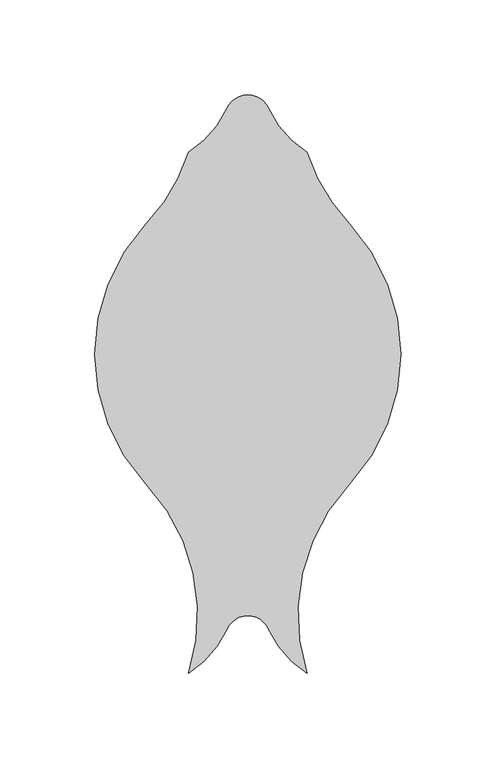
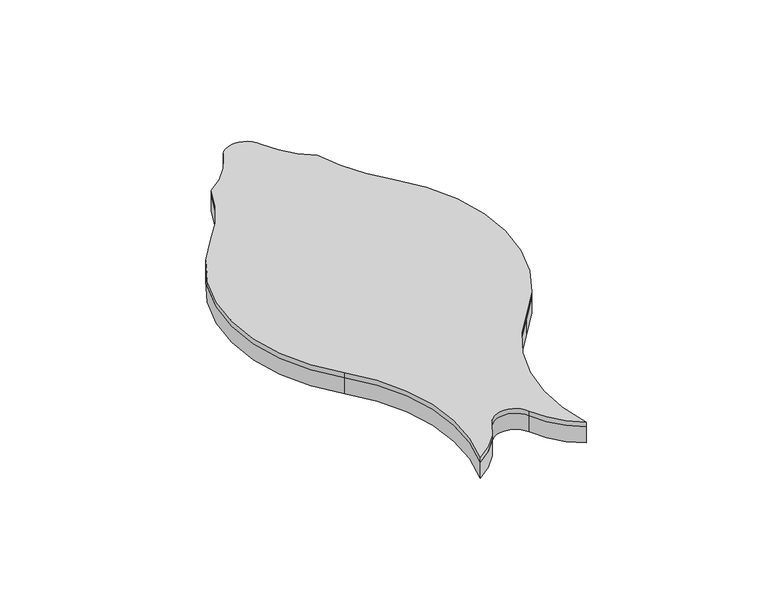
"""IFC4 building model written with IfcOpenShell, lengths in millimetres: proxy geometry, FilzFelt_Fish_Block : Fish Block."""

import ifcopenshell
import ifcopenshell.guid

model = None  # the IFC model being written
_history = None  # IfcOwnerHistory: only IFC2X3 demands one
_inside = {}  # id of a spatial element -> (the spatial element, [elements in it])
_under = {}  # id of a project, library or spatial element -> (it, [spatial elements below it])
_declared = {}  # id of a project -> (the project, [libraries it declares])
_typed = {}  # id of a type object -> (the type object, [elements of that type])
_made_of = {}  # id of a material, layer set ... -> (it, [elements and type objects made of it])


def new_model(schema):
    """Start an empty IFC model of exactly this schema.

    Asked for "IFC4X3", IfcOpenShell would pick the latest addendum, in which some entities
    have other attributes; the version numbers below select the first issue.
    IFC2X3 requires an IfcOwnerHistory on every rooted entity: one is made here for all.
    """
    global model, _history
    if schema == "IFC4X3":
        model = ifcopenshell.file(schema_version=(4, 3, 0, 0))
    else:
        model = ifcopenshell.file(schema=schema)
    _inside.clear()
    _under.clear()
    _declared.clear()
    _typed.clear()
    _made_of.clear()
    _history = None
    if model.schema == "IFC2X3":
        org = make("IfcOrganization", Name="unknown")
        user = make(
            "IfcPersonAndOrganization",
            ThePerson=make("IfcPerson", FamilyName="unknown"),
            TheOrganization=org,
        )
        app = make(
            "IfcApplication",
            ApplicationDeveloper=org,
            Version="unknown",
            ApplicationFullName="unknown",
            ApplicationIdentifier="unknown",
        )
        _history = make(
            "IfcOwnerHistory",
            OwningUser=user,
            OwningApplication=app,
            ChangeAction="ADDED",
            CreationDate=0,
        )
    return model


def make(cls, **values):
    """One entity of the class cls with the attributes given. An attribute that is None is left unset."""
    return model.create_entity(
        cls, **{name: value for name, value in values.items() if value is not None}
    )


def rooted(cls, **values):
    """An entity with a GlobalId (a new one), such as an element, a storey or a relation."""
    return make(cls, GlobalId=ifcopenshell.guid.new(), OwnerHistory=_history, **values)


def si_unit(unit_type, name, prefix=None):
    """IfcSIUnit, for example si_unit("LENGTHUNIT", "METRE", prefix="MILLI")."""
    return make("IfcSIUnit", UnitType=unit_type, Prefix=prefix, Name=name)


def assignment(units):
    """IfcUnitAssignment: the units of a project."""
    return None if units is None else make("IfcUnitAssignment", Units=units)


def point(xyz):
    """IfcCartesianPoint."""
    return None if xyz is None else make("IfcCartesianPoint", Coordinates=xyz)


def direction(xyz):
    """IfcDirection."""
    return None if xyz is None else make("IfcDirection", DirectionRatios=xyz)


def frame(location, z_axis=None, x_axis=None):
    """IfcAxis2Placement3D, a coordinate frame: its origin and axes. An axis left out is left unset."""
    return make(
        "IfcAxis2Placement3D",
        Location=point(location),
        Axis=direction(z_axis),
        RefDirection=direction(x_axis),
    )


def origin():
    """The frame at (0, 0, 0) with its axes left unset."""
    return frame((0.0, 0.0, 0.0))


def place(relative_to, where):
    """IfcLocalPlacement: puts the frame where relative to a parent placement (None: the world)."""
    return make(
        "IfcLocalPlacement", PlacementRelTo=relative_to, RelativePlacement=where
    )


def context(
    kind, dimensions, precision=None, world=None, true_north=None, identifier=None
):
    """IfcGeometricRepresentationContext, for example the 3D "Model" context."""
    return make(
        "IfcGeometricRepresentationContext",
        ContextIdentifier=identifier,
        ContextType=kind,
        CoordinateSpaceDimension=dimensions,
        Precision=precision,
        WorldCoordinateSystem=world,
        TrueNorth=true_north,
    )


def project(units=None, contexts=None):
    """IfcProject with its units and contexts."""
    return rooted(
        "IfcProject",
        Name="project",
        RepresentationContexts=contexts,
        UnitsInContext=assignment(units),
    )


def spatial(cls, under=None, at=None, **own):
    """A site, building, storey or space (cls), placed at a placement, below another one or the project."""
    s = rooted(cls, ObjectPlacement=at, **own)
    if under is not None:
        _under.setdefault(under.id(), (under, []))[1].append(s)
    return s


def polyline(points):
    """IfcPolyline through the points."""
    return make("IfcPolyline", Points=[point(p) for p in points])


def circle_curve(where, radius):
    """IfcCircle in the frame where."""
    return make("IfcCircle", Position=where, Radius=radius)


def shape(context_of_items, identifier, shape_type, items):
    """IfcShapeRepresentation: the items that make up one representation, for example the "Body"."""
    return make(
        "IfcShapeRepresentation",
        ContextOfItems=context_of_items,
        RepresentationIdentifier=identifier,
        RepresentationType=shape_type,
        Items=items,
    )


def source(mapping_origin, context_of_items, identifier, shape_type, items):
    """IfcRepresentationMap: a shape defined once, which mapped items show again and again."""
    return make(
        "IfcRepresentationMap",
        MappingOrigin=mapping_origin,
        MappedRepresentation=shape(context_of_items, identifier, shape_type, items),
    )


def transform(
    local_origin,
    x_axis=None,
    y_axis=None,
    z_axis=None,
    scale=None,
    scale2=None,
    scale3=None,
    uniform=True,
):
    """IfcCartesianTransformationOperator3D, or its non-uniform kind. x_axis, y_axis, z_axis: its Axis1, 2, 3."""
    if uniform:
        return make(
            "IfcCartesianTransformationOperator3D",
            Axis1=direction(x_axis),
            Axis2=direction(y_axis),
            LocalOrigin=point(local_origin),
            Scale=scale,
            Axis3=direction(z_axis),
        )
    return make(
        "IfcCartesianTransformationOperator3DnonUniform",
        Axis1=direction(x_axis),
        Axis2=direction(y_axis),
        LocalOrigin=point(local_origin),
        Scale=scale,
        Axis3=direction(z_axis),
        Scale2=scale2,
        Scale3=scale3,
    )


def mapped(mapping_source, mapping_target):
    """IfcMappedItem: shows the shape of a source again, moved by a transform."""
    return make(
        "IfcMappedItem", MappingSource=mapping_source, MappingTarget=mapping_target
    )


def made_of(thing, what):
    """Note that an element or type object is made of a material, layer set ...; save() writes the relation."""
    if what is not None:
        _made_of.setdefault(what.id(), (what, []))[1].append(thing)
    return thing


def element(
    cls,
    number,
    at=None,
    inside=None,
    cuts=None,
    type_object=None,
    material=None,
    context=None,
    identifier="Body",
    shape_type=None,
    held_by="IfcProductDefinitionShape",
    body=None,
    shapes=None,
    **own,
):
    """One element of the class cls, such as IfcWall. Its Tag is "e" and its number.

    at: its placement. inside: the storey or other place that contains it. cuts: it is an
    opening in that element (IfcRelVoidsElement). A single representation is given by context,
    identifier, shape_type and body (its items); several are given by shapes. held_by: the class
    of the entity that holds the representations. save() writes the other relations.
    """
    e = rooted(cls, Tag="e%d" % number, ObjectPlacement=at, **own)
    if body is not None:
        shapes = [shape(context, identifier, shape_type, body)]
    if shapes is not None:
        e.Representation = make(held_by, Representations=shapes)
    if inside is not None:
        _inside.setdefault(inside.id(), (inside, []))[1].append(e)
    if cuts is not None:
        rooted(
            "IfcRelVoidsElement", RelatingBuildingElement=cuts, RelatedOpeningElement=e
        )
    if type_object is not None:
        _typed.setdefault(type_object.id(), (type_object, []))[1].append(e)
    return made_of(e, material)


def aggregate(whole, parts):
    """IfcRelAggregates: a whole, such as a stair, and the parts it consists of."""
    return rooted("IfcRelAggregates", RelatingObject=whole, RelatedObjects=parts)


def save(model, path):
    """Write the relations noted so far, then the file.

    IfcRelAggregates (storeys below a building ...), IfcRelContainedInSpatialStructure (elements
    in a storey), IfcRelDefinesByType, IfcRelAssociatesMaterial and IfcRelDeclares: one each for
    every whole, place, type object, material and project.
    """
    for whole, parts in _under.values():
        aggregate(whole, parts)
    for where, things in _inside.values():
        rooted(
            "IfcRelContainedInSpatialStructure",
            RelatedElements=things,
            RelatingStructure=where,
        )
    for kind, things in _typed.values():
        rooted("IfcRelDefinesByType", RelatedObjects=things, RelatingType=kind)
    for what, things in _made_of.values():
        rooted("IfcRelAssociatesMaterial", RelatedObjects=things, RelatingMaterial=what)
    for by, libraries in _declared.values():
        rooted("IfcRelDeclares", RelatingContext=by, RelatedDefinitions=libraries)
    model.write(path)


def plane_surface(at):
    """IfcPlane: the flat surface through the origin of the frame at, square to its z axis."""
    return make("IfcPlane", Position=at)


def cylinder_surface(at, radius):
    """IfcCylindricalSurface: all points at the distance radius from the z axis of the frame at."""
    return make("IfcCylindricalSurface", Position=at, Radius=radius)


def revolved_surface(curve, axis_point, axis_direction):
    """IfcSurfaceOfRevolution: the curve turned about the line through axis_point along axis_direction."""
    return make(
        "IfcSurfaceOfRevolution",
        SweptCurve=make("IfcArbitraryOpenProfileDef", ProfileType="CURVE", Curve=curve),
        AxisPosition=make("IfcAxis1Placement", Location=point(axis_point), Axis=direction(axis_direction)),
    )


def advanced_brep(points, edges, surfaces, faces):
    """IfcAdvancedBrep: a solid bounded by faces that lie on surfaces and meet in shared edges.

    An edge is (start, end): straight between two places in points (the first is 0);
    or (start, end, curve); or (start, end, curve, False) where it runs against its curve.
    A face is (place in surfaces, loops), or (place, loops, False) where it looks against
    its surface's normal. A loop lists edges by number (the first is 1), with a minus sign
    where the edge is run from its end to its start. The first loop is the outer one.
    """
    corners = [point(p) for p in points]
    vertices = [make("IfcVertexPoint", VertexGeometry=c) for c in corners]
    made = []
    for start, end, *more in edges:
        made.append(
            make(
                "IfcEdgeCurve",
                EdgeStart=vertices[start],
                EdgeEnd=vertices[end],
                EdgeGeometry=more[0] if more else make("IfcPolyline", Points=[corners[start], corners[end]]),
                SameSense=more[1] if len(more) > 1 else True,
            )
        )
    hull = []
    for where, loops, *sense in faces:
        bounds = []
        for j, loop in enumerate(loops):
            ring = [make("IfcOrientedEdge", EdgeElement=made[abs(k) - 1], Orientation=k > 0) for k in loop]
            bounds.append(
                make(
                    "IfcFaceOuterBound" if j == 0 else "IfcFaceBound",
                    Bound=make("IfcEdgeLoop", EdgeList=ring),
                    Orientation=True,
                )
            )
        hull.append(make("IfcAdvancedFace", Bounds=bounds, FaceSurface=surfaces[where], SameSense=sense[0] if sense else True))
    return make("IfcAdvancedBrep", Outer=make("IfcClosedShell", CfsFaces=hull))


def specialty_equipment_58f33b70(model_context):
    return source(origin(), model_context, "Body", "AdvancedBrep", [
        advanced_brep(
        [(53.5486457, 68.6120133, 10.0210937), (53.5486457, -68.6120133, 10.0210937), (31.2619065, -168.1141956, 10.0210937), (11.0103348, -145.0347036, 10.0210937), (-11.0103348, -145.0347036, 10.0210937), (-31.2619065, -168.1141956, 10.0210937), (-53.5486457, -68.6120133, 10.0210937), (-53.5486457, 68.6120133, 10.0210937), (-31.2619065, 106.3338576, 10.0210937), (-11.0103348, 129.4133496, 10.0210937), (11.0103348, 129.4133496, 10.0210937), (31.2619065, 106.3338576, 10.0210937), (53.5486457, 68.6120133, 12.9976563), (31.2619065, 106.3338576, 12.9976563), (11.0103348, 129.4133496, 12.9976563), (0.0, 136.5838795, 12.9976563), (-11.0103348, 129.4133496, 12.9976563), (-31.2619065, 106.3338576, 12.9976563), (-53.5486457, 68.6120133, 12.9976563), (-53.5486457, -68.6120133, 12.9976563), (-31.2619065, -168.1141956, 12.9976563), (-11.0103348, -145.0347036, 12.9976563), (11.0103348, -145.0347036, 12.9976563), (31.2619065, -168.1141956, 12.9976563), (53.5486457, -68.6120133, 12.9976563), (80.7142226, 0.0, 12.9976563)],
        [
            (0, 1, circle_curve(frame((-19.5151403, 0.0, 10.0210937), z_axis=(0.0, 0.0, -1.0), x_axis=(-1.0, 0.0, 0.0)), 100.2293629)),
            (1, 2, circle_curve(frame((126.6124317, -137.2240266, 10.0210937), z_axis=(0.0, 0.0, 1.0), x_axis=(-1.0, 0.0, 0.0)), 100.2293629)),
            (2, 3, circle_curve(frame((57.9263497, -124.2921115, 10.0210937), z_axis=(0.0, 0.0, -1.0), x_axis=(-1.0, 0.0, 0.0)), 51.2968574)),
            (3, 4, circle_curve(frame((0.0, -149.9026124, 10.0210937), z_axis=(0.0, 0.0, 1.0), x_axis=(-1.0, 0.0, 0.0)), 12.0384388)),
            (4, 5, circle_curve(frame((-57.9263497, -124.2921115, 10.0210937), z_axis=(0.0, 0.0, -1.0), x_axis=(-1.0, 0.0, 0.0)), 51.2968574)),
            (5, 6, circle_curve(frame((-126.6124317, -137.2240266, 10.0210937), z_axis=(0.0, 0.0, 1.0), x_axis=(-1.0, 0.0, 0.0)), 100.2293629)),
            (6, 7, circle_curve(frame((19.5151403, 0.0, 10.0210937), z_axis=(0.0, 0.0, -1.0), x_axis=(-1.0, 0.0, 0.0)), 100.2293629)),
            (7, 8, circle_curve(frame((-126.6124317, 137.2240266, 10.0210937), z_axis=(0.0, 0.0, 1.0), x_axis=(-1.0, 0.0, 0.0)), 100.2293629)),
            (8, 9, circle_curve(frame((-57.9263497, 150.1559416, 10.0210937), z_axis=(0.0, 0.0, 1.0), x_axis=(-1.0, 0.0, 0.0)), 51.2968574)),
            (9, 10, circle_curve(frame((0.0, 124.5454408, 10.0210937), z_axis=(0.0, 0.0, -1.0), x_axis=(-1.0, 0.0, 0.0)), 12.0384388)),
            (10, 11, circle_curve(frame((57.9263497, 150.1559416, 10.0210937), z_axis=(0.0, 0.0, 1.0), x_axis=(-1.0, 0.0, 0.0)), 51.2968574)),
            (11, 0, circle_curve(frame((126.6124317, 137.2240266, 10.0210937), z_axis=(0.0, 0.0, 1.0), x_axis=(-1.0, 0.0, 0.0)), 100.2293629)),
            (12, 13, circle_curve(frame((126.6124317, 137.2240266, 12.9976563), z_axis=(0.0, 0.0, -1.0), x_axis=(-1.0, 0.0, 0.0)), 100.2293629)),
            (13, 14, circle_curve(frame((57.9263497, 150.1559416, 12.9976563), z_axis=(0.0, 0.0, -1.0), x_axis=(-1.0, 0.0, 0.0)), 51.2968574)),
            (14, 15, circle_curve(frame((0.0, 124.5454408, 12.9976563), z_axis=(0.0, 0.0, 1.0), x_axis=(-1.0, 0.0, 0.0)), 12.0384388)),
            (15, 16, circle_curve(frame((0.0, 124.5454408, 12.9976563), z_axis=(0.0, 0.0, 1.0), x_axis=(-1.0, 0.0, 0.0)), 12.0384388)),
            (16, 17, circle_curve(frame((-57.9263497, 150.1559416, 12.9976563), z_axis=(0.0, 0.0, -1.0), x_axis=(-1.0, 0.0, 0.0)), 51.2968574)),
            (17, 18, circle_curve(frame((-126.6124317, 137.2240266, 12.9976563), z_axis=(0.0, 0.0, -1.0), x_axis=(-1.0, 0.0, 0.0)), 100.2293629)),
            (18, 19, circle_curve(frame((19.5151403, 0.0, 12.9976563), z_axis=(0.0, 0.0, 1.0), x_axis=(-1.0, 0.0, 0.0)), 100.2293629)),
            (19, 20, circle_curve(frame((-126.6124317, -137.2240266, 12.9976563), z_axis=(0.0, 0.0, -1.0), x_axis=(-1.0, 0.0, 0.0)), 100.2293629)),
            (20, 21, circle_curve(frame((-57.9263497, -124.2921115, 12.9976563), z_axis=(0.0, 0.0, 1.0), x_axis=(-1.0, 0.0, 0.0)), 51.2968574)),
            (21, 22, circle_curve(frame((0.0, -149.9026124, 12.9976563), z_axis=(0.0, 0.0, -1.0), x_axis=(-1.0, 0.0, 0.0)), 12.0384388)),
            (22, 23, circle_curve(frame((57.9263497, -124.2921115, 12.9976563), z_axis=(0.0, 0.0, 1.0), x_axis=(-1.0, 0.0, 0.0)), 51.2968574)),
            (23, 24, circle_curve(frame((126.6124317, -137.2240266, 12.9976563), z_axis=(0.0, 0.0, -1.0), x_axis=(-1.0, 0.0, 0.0)), 100.2293629)),
            (24, 25, circle_curve(frame((-19.5151403, 0.0, 12.9976563), z_axis=(0.0, 0.0, 1.0), x_axis=(-1.0, 0.0, 0.0)), 100.2293629)),
            (25, 12, circle_curve(frame((-19.5151403, 0.0, 12.9976563), z_axis=(0.0, 0.0, 1.0), x_axis=(-1.0, 0.0, 0.0)), 100.2293629)),
            (0, 12),
            (24, 1),
            (23, 2),
            (22, 3),
            (21, 4),
            (20, 5),
            (19, 6),
            (18, 7),
            (17, 8),
            (16, 9),
            (14, 10),
            (13, 11),
        ],
        [
            plane_surface(frame((0.0, 0.0, 10.0210937), z_axis=(0.0, 0.0, -1.0), x_axis=(0.0, -1.0, 0.0))),
            plane_surface(frame((0.0, 0.0, 12.9976563), z_axis=(0.0, 0.0, 1.0), x_axis=(0.0, -1.0, 0.0))),
            cylinder_surface(frame((-19.5151403, 0.0, 10.0210937), z_axis=(0.0, 0.0, -1.0), x_axis=(-1.0, 0.0, 0.0)), 100.2293629),
            revolved_surface(polyline([(26.383068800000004, -137.2240266, 12.9976563), (26.383068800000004, -137.2240266, 10.0210937)]), (126.6124317, -137.2240266, 10.0210937), (0.0, 0.0, 1.0)),
            cylinder_surface(frame((57.9263497, -124.2921115, 10.0210937), z_axis=(0.0, 0.0, -1.0), x_axis=(-1.0, 0.0, 0.0)), 51.2968574),
            revolved_surface(polyline([(-12.0384388, -149.9026124, 12.9976563), (-12.0384388, -149.9026124, 10.0210937)]), (0.0, -149.9026124, 10.0210937), (0.0, 0.0, 1.0)),
            cylinder_surface(frame((-57.9263497, -124.2921115, 10.0210937), z_axis=(0.0, 0.0, -1.0), x_axis=(-1.0, 0.0, 0.0)), 51.2968574),
            revolved_surface(polyline([(-226.84179460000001, -137.2240266, 12.9976563), (-226.84179460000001, -137.2240266, 10.0210937)]), (-126.6124317, -137.2240266, 10.0210937), (0.0, 0.0, 1.0)),
            cylinder_surface(frame((19.5151403, 0.0, 10.0210937), z_axis=(0.0, 0.0, -1.0), x_axis=(-1.0, 0.0, 0.0)), 100.2293629),
            revolved_surface(polyline([(-226.84179460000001, 137.2240266, 12.9976563), (-226.84179460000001, 137.2240266, 10.0210937)]), (-126.6124317, 137.2240266, 10.0210937), (0.0, 0.0, 1.0)),
            revolved_surface(polyline([(-109.2232071, 150.1559416, 12.9976563), (-109.2232071, 150.1559416, 10.0210937)]), (-57.9263497, 150.1559416, 10.0210937), (0.0, 0.0, 1.0)),
            cylinder_surface(frame((0.0, 124.5454408, 10.0210937), z_axis=(0.0, 0.0, -1.0), x_axis=(-1.0, 0.0, 0.0)), 12.0384388),
            revolved_surface(polyline([(6.629492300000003, 150.1559416, 12.9976563), (6.629492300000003, 150.1559416, 10.0210937)]), (57.9263497, 150.1559416, 10.0210937), (0.0, 0.0, 1.0)),
            revolved_surface(polyline([(26.383068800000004, 137.2240266, 12.9976563), (26.383068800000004, 137.2240266, 10.0210937)]), (126.6124317, 137.2240266, 10.0210937), (0.0, 0.0, 1.0)),
        ],
        [
            (0, [[1, 2, 3, 4, 5, 6, 7, 8, 9, 10, 11, 12]]),
            (1, [[13, 14, 15, 16, 17, 18, 19, 20, 21, 22, 23, 24, 25, 26]]),
            (2, [[-1, 27, -26, -25, 28]]),
            (3, [[-2, -28, -24, 29]]),
            (4, [[-3, -29, -23, 30]]),
            (5, [[-4, -30, -22, 31]]),
            (6, [[-5, -31, -21, 32]]),
            (7, [[-6, -32, -20, 33]]),
            (8, [[-7, -33, -19, 34]]),
            (9, [[-8, -34, -18, 35]]),
            (10, [[-9, -35, -17, 36]]),
            (11, [[-10, -36, -16, -15, 37]]),
            (12, [[-11, -37, -14, 38]]),
            (13, [[-12, -38, -13, -27]]),
        ],
    ),
        advanced_brep(
        [(31.2619065, -168.1141956, 0.0), (11.0103348, -145.0347036, 0.0), (-11.0103348, -145.0347036, 0.0), (-31.2619065, -168.1141956, 0.0), (-53.5486457, -68.6120133, 0.0), (-53.5486457, 68.6120133, 0.0), (-31.2619065, 106.3338576, 0.0), (-11.0103348, 129.4133496, 0.0), (0.0, 136.5838795, 0.0), (11.0103348, 129.4133496, 0.0), (31.2619065, 106.3338576, 0.0), (53.5486457, 68.6120133, 0.0), (80.7142226, 0.0, 0.0), (53.5486457, -68.6120133, 0.0), (31.2619065, -168.1141956, 10.0210937), (53.5486457, -68.6120133, 10.0210937), (53.5486457, 68.6120133, 10.0210937), (31.2619065, 106.3338576, 10.0210937), (11.0103348, 129.4133496, 10.0210937), (-11.0103348, 129.4133496, 10.0210937), (-31.2619065, 106.3338576, 10.0210937), (-53.5486457, 68.6120133, 10.0210937), (-53.5486457, -68.6120133, 10.0210937), (-31.2619065, -168.1141956, 10.0210937), (-11.0103348, -145.0347036, 10.0210937), (11.0103348, -145.0347036, 10.0210937)],
        [
            (0, 1, circle_curve(frame((57.9263497, -124.2921115, 0.0), z_axis=(0.0, 0.0, -1.0), x_axis=(-1.0, 0.0, 0.0)), 51.2968574)),
            (1, 2, circle_curve(frame((0.0, -149.9026124, 0.0), z_axis=(0.0, 0.0, 1.0), x_axis=(-1.0, 0.0, 0.0)), 12.0384388)),
            (2, 3, circle_curve(frame((-57.9263497, -124.2921115, 0.0), z_axis=(0.0, 0.0, -1.0), x_axis=(-1.0, 0.0, 0.0)), 51.2968574)),
            (3, 4, circle_curve(frame((-126.6124317, -137.2240266, 0.0), z_axis=(0.0, 0.0, 1.0), x_axis=(-1.0, 0.0, 0.0)), 100.2293629)),
            (4, 5, circle_curve(frame((19.5151403, 0.0, 0.0), z_axis=(0.0, 0.0, -1.0), x_axis=(-1.0, 0.0, 0.0)), 100.2293629)),
            (5, 6, circle_curve(frame((-126.6124317, 137.2240266, 0.0), z_axis=(0.0, 0.0, 1.0), x_axis=(-1.0, 0.0, 0.0)), 100.2293629)),
            (6, 7, circle_curve(frame((-57.9263497, 150.1559416, 0.0), z_axis=(0.0, 0.0, 1.0), x_axis=(-1.0, 0.0, 0.0)), 51.2968574)),
            (7, 8, circle_curve(frame((0.0, 124.5454408, 0.0), z_axis=(0.0, 0.0, -1.0), x_axis=(-1.0, 0.0, 0.0)), 12.0384388)),
            (8, 9, circle_curve(frame((0.0, 124.5454408, 0.0), z_axis=(0.0, 0.0, -1.0), x_axis=(-1.0, 0.0, 0.0)), 12.0384388)),
            (9, 10, circle_curve(frame((57.9263497, 150.1559416, 0.0), z_axis=(0.0, 0.0, 1.0), x_axis=(-1.0, 0.0, 0.0)), 51.2968574)),
            (10, 11, circle_curve(frame((126.6124317, 137.2240266, 0.0), z_axis=(0.0, 0.0, 1.0), x_axis=(-1.0, 0.0, 0.0)), 100.2293629)),
            (11, 12, circle_curve(frame((-19.5151403, 0.0, 0.0), z_axis=(0.0, 0.0, -1.0), x_axis=(-1.0, 0.0, 0.0)), 100.2293629)),
            (12, 13, circle_curve(frame((-19.5151403, 0.0, 0.0), z_axis=(0.0, 0.0, -1.0), x_axis=(-1.0, 0.0, 0.0)), 100.2293629)),
            (13, 0, circle_curve(frame((126.6124317, -137.2240266, 0.0), z_axis=(0.0, 0.0, 1.0), x_axis=(-1.0, 0.0, 0.0)), 100.2293629)),
            (14, 15, circle_curve(frame((126.6124317, -137.2240266, 10.0210937), z_axis=(0.0, 0.0, -1.0), x_axis=(-1.0, 0.0, 0.0)), 100.2293629)),
            (15, 16, circle_curve(frame((-19.5151403, 0.0, 10.0210937), z_axis=(0.0, 0.0, 1.0), x_axis=(-1.0, 0.0, 0.0)), 100.2293629)),
            (16, 17, circle_curve(frame((126.6124317, 137.2240266, 10.0210937), z_axis=(0.0, 0.0, -1.0), x_axis=(-1.0, 0.0, 0.0)), 100.2293629)),
            (17, 18, circle_curve(frame((57.9263497, 150.1559416, 10.0210937), z_axis=(0.0, 0.0, -1.0), x_axis=(-1.0, 0.0, 0.0)), 51.2968574)),
            (18, 19, circle_curve(frame((0.0, 124.5454408, 10.0210937), z_axis=(0.0, 0.0, 1.0), x_axis=(-1.0, 0.0, 0.0)), 12.0384388)),
            (19, 20, circle_curve(frame((-57.9263497, 150.1559416, 10.0210937), z_axis=(0.0, 0.0, -1.0), x_axis=(-1.0, 0.0, 0.0)), 51.2968574)),
            (20, 21, circle_curve(frame((-126.6124317, 137.2240266, 10.0210937), z_axis=(0.0, 0.0, -1.0), x_axis=(-1.0, 0.0, 0.0)), 100.2293629)),
            (21, 22, circle_curve(frame((19.5151403, 0.0, 10.0210937), z_axis=(0.0, 0.0, 1.0), x_axis=(-1.0, 0.0, 0.0)), 100.2293629)),
            (22, 23, circle_curve(frame((-126.6124317, -137.2240266, 10.0210937), z_axis=(0.0, 0.0, -1.0), x_axis=(-1.0, 0.0, 0.0)), 100.2293629)),
            (23, 24, circle_curve(frame((-57.9263497, -124.2921115, 10.0210937), z_axis=(0.0, 0.0, 1.0), x_axis=(-1.0, 0.0, 0.0)), 51.2968574)),
            (24, 25, circle_curve(frame((0.0, -149.9026124, 10.0210937), z_axis=(0.0, 0.0, -1.0), x_axis=(-1.0, 0.0, 0.0)), 12.0384388)),
            (25, 14, circle_curve(frame((57.9263497, -124.2921115, 10.0210937), z_axis=(0.0, 0.0, 1.0), x_axis=(-1.0, 0.0, 0.0)), 51.2968574)),
            (0, 14),
            (25, 1),
            (24, 2),
            (23, 3),
            (22, 4),
            (21, 5),
            (20, 6),
            (19, 7),
            (18, 9),
            (17, 10),
            (16, 11),
            (15, 13),
        ],
        [
            plane_surface(frame((0.0, 0.0, 0.0), z_axis=(0.0, 0.0, -1.0), x_axis=(0.0, -1.0, 0.0))),
            plane_surface(frame((0.0, 0.0, 10.0210937), z_axis=(0.0, 0.0, 1.0), x_axis=(0.0, -1.0, 0.0))),
            cylinder_surface(frame((57.9263497, -124.2921115, 0.0), z_axis=(0.0, 0.0, -1.0), x_axis=(-1.0, 0.0, 0.0)), 51.2968574),
            revolved_surface(polyline([(-12.0384388, -149.9026124, 10.0210937), (-12.0384388, -149.9026124, 0.0)]), (0.0, -149.9026124, 0.0), (0.0, 0.0, 1.0)),
            cylinder_surface(frame((-57.9263497, -124.2921115, 0.0), z_axis=(0.0, 0.0, -1.0), x_axis=(-1.0, 0.0, 0.0)), 51.2968574),
            revolved_surface(polyline([(-226.84179460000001, -137.2240266, 10.0210937), (-226.84179460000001, -137.2240266, 0.0)]), (-126.6124317, -137.2240266, 0.0), (0.0, 0.0, 1.0)),
            cylinder_surface(frame((19.5151403, 0.0, 0.0), z_axis=(0.0, 0.0, -1.0), x_axis=(-1.0, 0.0, 0.0)), 100.2293629),
            revolved_surface(polyline([(-226.84179460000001, 137.2240266, 10.0210937), (-226.84179460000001, 137.2240266, 0.0)]), (-126.6124317, 137.2240266, 0.0), (0.0, 0.0, 1.0)),
            revolved_surface(polyline([(-109.2232071, 150.1559416, 10.0210937), (-109.2232071, 150.1559416, 0.0)]), (-57.9263497, 150.1559416, 0.0), (0.0, 0.0, 1.0)),
            cylinder_surface(frame((0.0, 124.5454408, 0.0), z_axis=(0.0, 0.0, -1.0), x_axis=(-1.0, 0.0, 0.0)), 12.0384388),
            revolved_surface(polyline([(6.629492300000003, 150.1559416, 10.0210937), (6.629492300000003, 150.1559416, 0.0)]), (57.9263497, 150.1559416, 0.0), (0.0, 0.0, 1.0)),
            revolved_surface(polyline([(26.383068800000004, 137.2240266, 10.0210937), (26.383068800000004, 137.2240266, 0.0)]), (126.6124317, 137.2240266, 0.0), (0.0, 0.0, 1.0)),
            cylinder_surface(frame((-19.5151403, 0.0, 0.0), z_axis=(0.0, 0.0, -1.0), x_axis=(-1.0, 0.0, 0.0)), 100.2293629),
            revolved_surface(polyline([(26.383068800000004, -137.2240266, 10.0210937), (26.383068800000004, -137.2240266, 0.0)]), (126.6124317, -137.2240266, 0.0), (0.0, 0.0, 1.0)),
        ],
        [
            (0, [[1, 2, 3, 4, 5, 6, 7, 8, 9, 10, 11, 12, 13, 14]]),
            (1, [[15, 16, 17, 18, 19, 20, 21, 22, 23, 24, 25, 26]]),
            (2, [[-1, 27, -26, 28]]),
            (3, [[-2, -28, -25, 29]]),
            (4, [[-3, -29, -24, 30]]),
            (5, [[-4, -30, -23, 31]]),
            (6, [[-5, -31, -22, 32]]),
            (7, [[-6, -32, -21, 33]]),
            (8, [[-7, -33, -20, 34]]),
            (9, [[-19, 35, -9, -8, -34]]),
            (10, [[-10, -35, -18, 36]]),
            (11, [[-11, -36, -17, 37]]),
            (12, [[-16, 38, -13, -12, -37]]),
            (13, [[-14, -38, -15, -27]]),
        ],
    ),
    ])


if __name__ == "__main__":
    model = new_model("IFC4")
    model_context = context("Model", 3, world=origin())
    ifc_project = project(units=[si_unit("LENGTHUNIT", "METRE", prefix="MILLI")], contexts=[model_context])
    site = spatial("IfcSite", under=ifc_project)
    building = spatial("IfcBuilding", under=site)
    placement = place(None, origin())
    specialty_equipment_shape = specialty_equipment_58f33b70(model_context)
    element("IfcBuildingElementProxy", 1, Name="FilzFelt_Fish_Block : Fish Block", ObjectType="FilzFelt_Fish_Block : Fish Block", at=placement, inside=building, context=model_context, shape_type="MappedRepresentation", body=[
        mapped(specialty_equipment_shape, transform((0.0, 0.0, 0.0), x_axis=(1.0, 0.0, 0.0), y_axis=(0.0, 1.0, 0.0), z_axis=(0.0, 0.0, 1.0))),
    ])
    save(model, "model.ifc")
